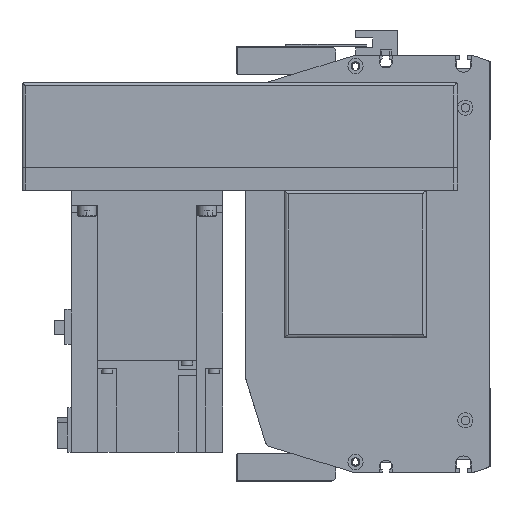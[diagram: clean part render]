
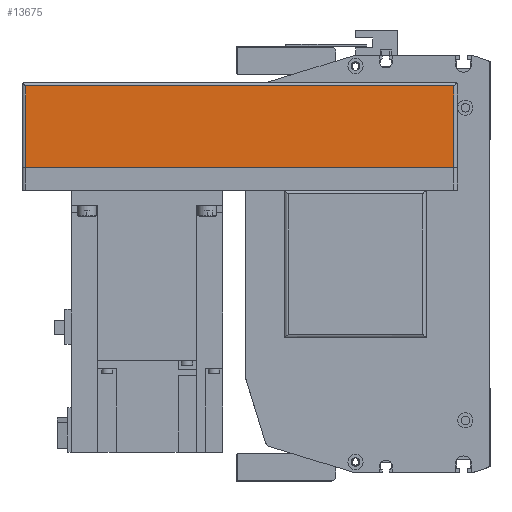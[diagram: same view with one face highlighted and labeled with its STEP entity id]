
A CAD part, left-side view. The second image highlights one B-rep face of the part: STEP entity #13675.
In plain terms, the highlighted planar face has unit normal (-1, 0, 0) as drawn and (0, 1, 0) by its records, which use the part's own axes.
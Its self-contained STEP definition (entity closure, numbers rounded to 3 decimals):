
#2340=ORIENTED_EDGE('',*,*,#5590,.F.);
#2341=ORIENTED_EDGE('',*,*,#5530,.T.);
#2342=ORIENTED_EDGE('',*,*,#5591,.F.);
#2343=ORIENTED_EDGE('',*,*,#5525,.F.);
#5525=EDGE_CURVE('',#7296,#7297,#8710,.T.);
#5530=EDGE_CURVE('',#7302,#7301,#8712,.T.);
#5590=EDGE_CURVE('',#7302,#7296,#8755,.T.);
#5591=EDGE_CURVE('',#7297,#7301,#8756,.T.);
#7296=VERTEX_POINT('',#21240);
#7297=VERTEX_POINT('',#21242);
#7301=VERTEX_POINT('',#21251);
#7302=VERTEX_POINT('',#21253);
#8710=LINE('',#21241,#10045);
#8712=LINE('',#21252,#10047);
#8755=LINE('',#21375,#10090);
#8756=LINE('',#21376,#10091);
#10045=VECTOR('',#16995,1000.);
#10047=VECTOR('',#17005,1000.);
#10090=VECTOR('',#17126,1000.);
#10091=VECTOR('',#17127,1000.);
#11234=EDGE_LOOP('',(#2340,#2341,#2342,#2343));
#12233=FACE_BOUND('',#11234,.T.);
#13070=PLANE('',#14680);
#13675=ADVANCED_FACE('',(#12233),#13070,.T.);
#14680=AXIS2_PLACEMENT_3D('',#21374,#17124,#17125);
#16995=DIRECTION('',(0.,0.,1.));
#17005=DIRECTION('',(0.,0.,1.));
#17124=DIRECTION('',(0.,1.,0.));
#17125=DIRECTION('',(0.,0.,1.));
#17126=DIRECTION('',(1.,0.,0.));
#17127=DIRECTION('',(-1.,0.,0.));
#21240=CARTESIAN_POINT('',(-2.,54.,-55.));
#21241=CARTESIAN_POINT('',(-2.,54.,-57.));
#21242=CARTESIAN_POINT('',(-2.,54.,-12.));
#21251=CARTESIAN_POINT('',(-228.,54.,-12.));
#21252=CARTESIAN_POINT('',(-228.,54.,-57.));
#21253=CARTESIAN_POINT('',(-228.,54.,-55.));
#21374=CARTESIAN_POINT('',(-2.,54.,-57.));
#21375=CARTESIAN_POINT('',(-230.,54.,-55.));
#21376=CARTESIAN_POINT('',(-2.,54.,-12.));
